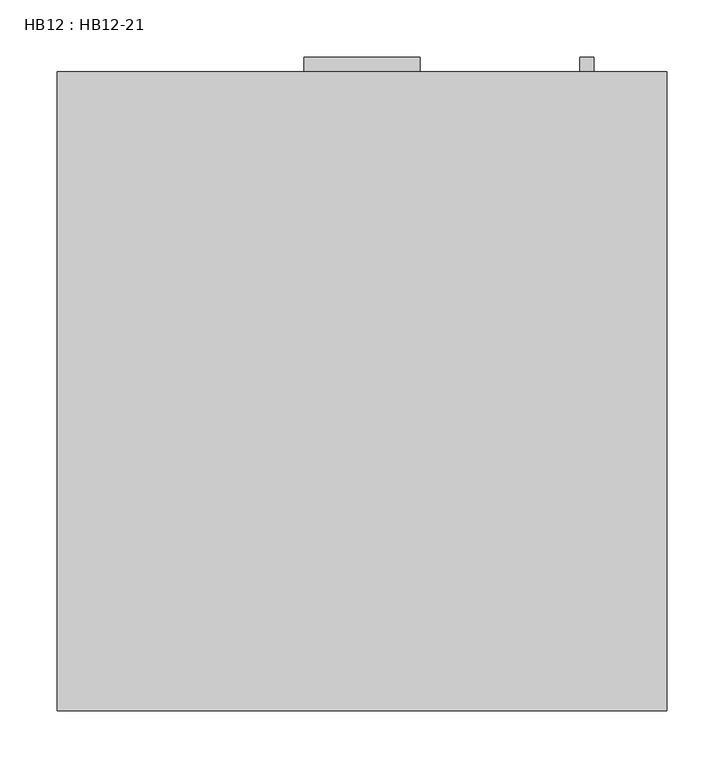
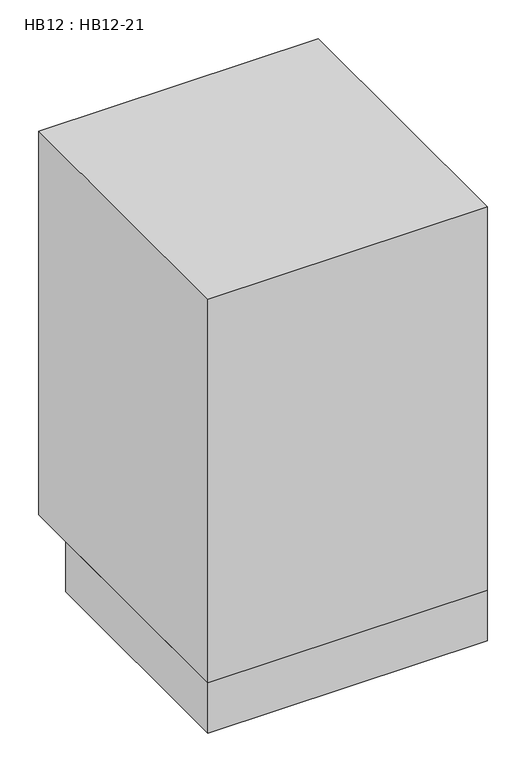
"""IFC4 building model written with IfcOpenShell, lengths in millimetres: furniture geometry, HB12 : HB12-21."""

from ifc_helpers import new_model, si_unit, frame, origin, origin_with_axes, place, context, project, spatial, polyline, outline, extrude, source, transform, mapped, element, save


def hb12_hb12_21_72806c5e(model_context):
    return source(origin(), model_context, "Body", "SweptSolid", [
        extrude(outline(polyline([(285.4377049, 0.0), (-247.9622951, 0.0), (-247.9622951, 558.8), (285.4377049, 558.8), (285.4377049, 0.0)])), frame((0.0, 0.0, 101.6), z_axis=(0.0, 0.0, 1.0), x_axis=(1.0, 0.0, 0.0)), (0.0, 0.0, 1.0), 774.7),
        extrude(outline(polyline([(69.5377049, 571.5), (69.5377049, 558.8), (-32.0622951, 558.8), (-32.0622951, 571.5), (69.5377049, 571.5)])), frame((0.0, 0.0, 793.85), z_axis=(0.0, 0.0, 1.0), x_axis=(1.0, 0.0, 0.0)), (0.0, 0.0, 1.0), 12.6),
        extrude(outline(polyline([(221.8877049, 571.5), (221.8877049, 558.8), (209.2877049, 558.8), (209.2877049, 571.5), (221.8877049, 571.5)])), frame((0.0, 0.0, 571.5), z_axis=(0.0, 0.0, 1.0), x_axis=(1.0, 0.0, 0.0)), (0.0, 0.0, 1.0), 76.2),
        extrude(outline(polyline([(285.4377049, 0.0), (-247.9622951, 0.0), (-247.9622951, 469.9), (285.4377049, 469.9), (285.4377049, 0.0)])), origin_with_axes(), (0.0, 0.0, 1.0), 101.6),
    ])


if __name__ == "__main__":
    model = new_model("IFC4")
    model_context = context("Model", 3, world=origin())
    ifc_project = project(units=[si_unit("LENGTHUNIT", "METRE", prefix="MILLI")], contexts=[model_context])
    site = spatial("IfcSite", under=ifc_project)
    building = spatial("IfcBuilding", under=site)
    placement = place(None, origin())
    hb12_hb12_21_shape = hb12_hb12_21_72806c5e(model_context)
    element("IfcFurniture", 1, ObjectType="HB12 : HB12-21", at=placement, inside=building, context=model_context, shape_type="MappedRepresentation", body=[
        mapped(hb12_hb12_21_shape, transform((0.0, 0.0, 0.0), x_axis=(1.0, 0.0, 0.0), y_axis=(0.0, 1.0, 0.0), z_axis=(0.0, 0.0, 1.0))),
    ])
    save(model, "model.ifc")
